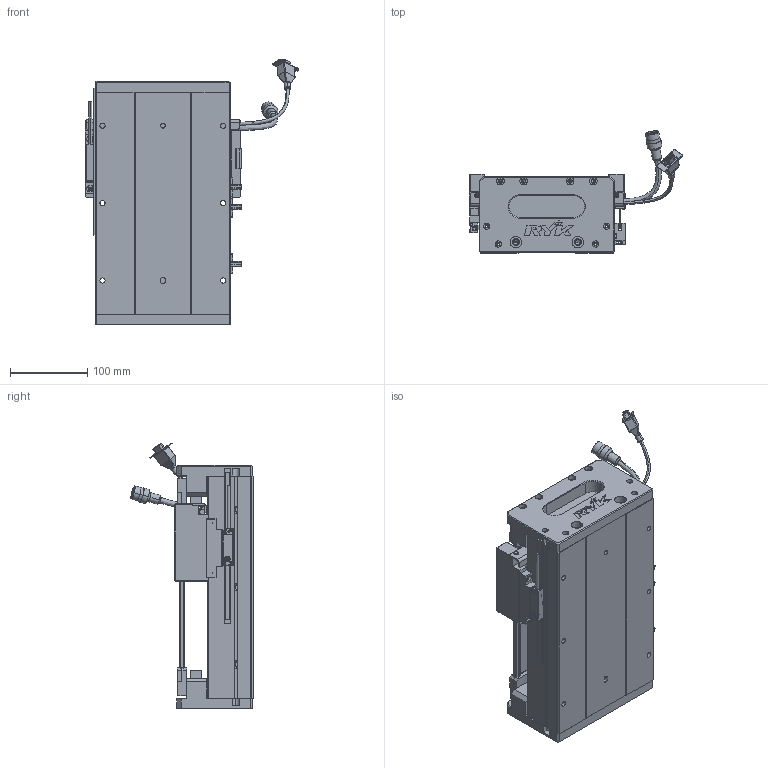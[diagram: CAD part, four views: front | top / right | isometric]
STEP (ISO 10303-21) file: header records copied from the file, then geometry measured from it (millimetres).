
FILE_DESCRIPTION (( 'STEP AP203' ), '1' );
FILE_NAME ('Z1-RY170D-1-L500-B-K.SLDASM_0100.step', '2021-05-17T08:51:07', ( '盈信电脑' ), ( '东莞市道滘镇水果街19号' ), 'SwSTEP 2.0', 'SolidWorks 2016', '' );
FILE_SCHEMA (( 'CONFIG_CONTROL_DESIGN' ));
Length unit declared in the file: millimetre
Products named in the file (36): SCREW-M1.6-3; HARNESS; SHIELDPLATE; 140雄赽晤鎢ん堤盄; COVER; SCALE-Part-2; HOLDER0; Z1-RY170-L500耀郪菁釱_0100; 140蚥薯蝶輸; SEAL; SCREW-M1.7-1; Z1-RY170臏賑輸(21遴); Z-170詩湍傷裔啣; SCALE; SCREW-M1.6; Z1-RY170D-1-L500-B-K.SLDASM_0100; 080黍杅芛假蚾釱21遴; PBU_SHEET; SCREW-M1.6-1; SEAL-Part-1; HARNESS-Part-2; SCALE-Part-1; SCREW-M1.6-2; SCREW-M1.7; Z1-RY170-L500詩湍145mm遵_0100; HARNESS-Part-1; RY170直线电机感应器672光电感应片; 170-Z-臏賑輸盄裔(21遴); LABEL-Part-1; Z-RY170詩湍奻揤裔; Z-RY170詩湍狟揤裔; PSLH080_PSLF2; 覜茼ん672; 榋妏寠巭燃_暯_M2_2; COVER-Part-1; LABEL
Assembly tree (41 placements, depth 4):
  Z1-RY170D-1-L500-B-K.SLDASM_0100
    Z1-RY170-L500耀郪菁釱_0100
    RY170直线电机感应器672光电感应片
    Z1-RY170臏賑輸(21遴)
    覜茼ん672  x3
    PSLH080_PSLF2
      SCALE
        SCALE-Part-1
        SCALE-Part-2
      HARNESS
        HARNESS-Part-1
        HARNESS-Part-2
      LABEL
        LABEL-Part-1
      COVER
        COVER-Part-1
      SEAL
        SEAL-Part-1
      榋妏寠巭燃_暯_M2_2
      SHIELDPLATE
      SCREW-M1.7
      SCREW-M1.7-1
      PBU_SHEET
      SCREW-M1.6
      SCREW-M1.6-1
      SCREW-M1.6-2
      SCREW-M1.6-3
      HOLDER0
    080黍杅芛假蚾釱21遴
    Z1-RY170-L500詩湍145mm遵_0100
    Z-170詩湍傷裔啣  x2
    Z-RY170詩湍奻揤裔  x2
    Z-RY170詩湍狟揤裔  x2
    140蚥薯蝶輸  x2
    170-Z-臏賑輸盄裔(21遴)
    140雄赽晤鎢ん堤盄
Bounding box: 275.34 x 158.11 x 343.73 mm (x, y, z)
Volume: 2567687.8 mm3; surface area: 623965.3 mm2
Topology: 36 solids, 36 shells, 2448 faces, 6355 edges, 4023 vertices
Faces by surface type: plane 1068, cylinder 1002, cone 256, torus 69, bspline 53
Entity records: 67051 total; most frequent: CARTESIAN_POINT 15500, DIRECTION 10101, ORIENTED_EDGE 9770, EDGE_CURVE 4885, AXIS2_PLACEMENT_3D 3650, VERTEX_POINT 3141, VECTOR 2801, LINE 2801
